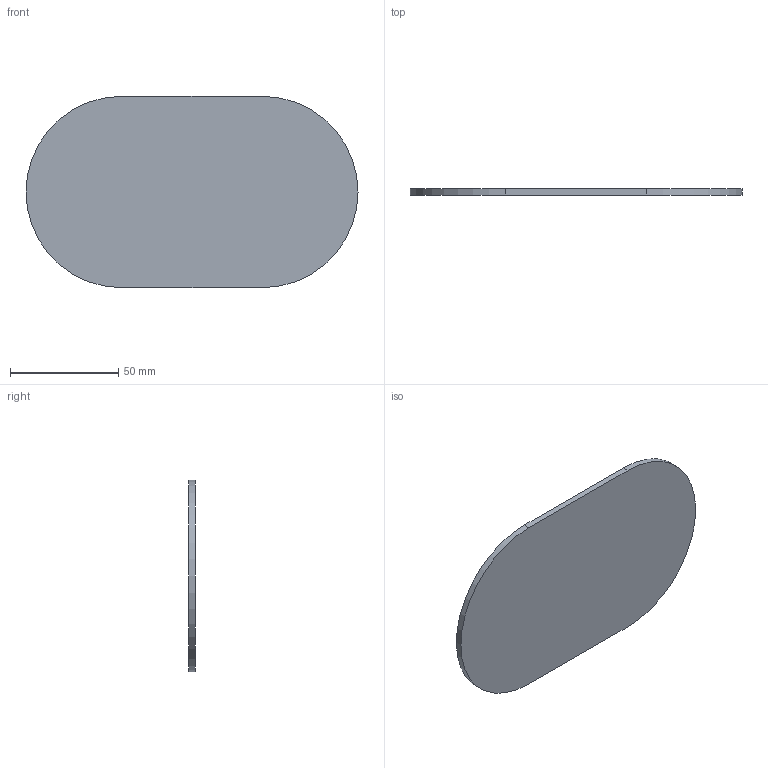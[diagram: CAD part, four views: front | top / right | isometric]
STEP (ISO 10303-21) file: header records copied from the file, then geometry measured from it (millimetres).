
FILE_DESCRIPTION (( 'STEP AP214' ), '1' );
FILE_NAME ('MONO_038-p309_01.STEP', '2025-09-23T04:44:54', ( '' ), ( '' ), 'SwSTEP 2.0', 'SolidWorks 2024', '' );
FILE_SCHEMA (( 'AUTOMOTIVE_DESIGN' ));
Length unit declared in the file: millimetre
Products named in the file (1): MONO_038-p309_01
Bounding box: 153.4 x 3 x 88.4 mm (x, y, z)
Volume: 35650.6 mm3; surface area: 24990.2 mm2
Topology: 1 solids, 1 shells, 6 faces, 12 edges, 8 vertices
Faces by surface type: plane 4, cylinder 2
Entity records: 183 total; most frequent: DIRECTION 30, CARTESIAN_POINT 27, ORIENTED_EDGE 24, EDGE_CURVE 12, AXIS2_PLACEMENT_3D 11, VERTEX_POINT 8, LINE 8, VECTOR 8
